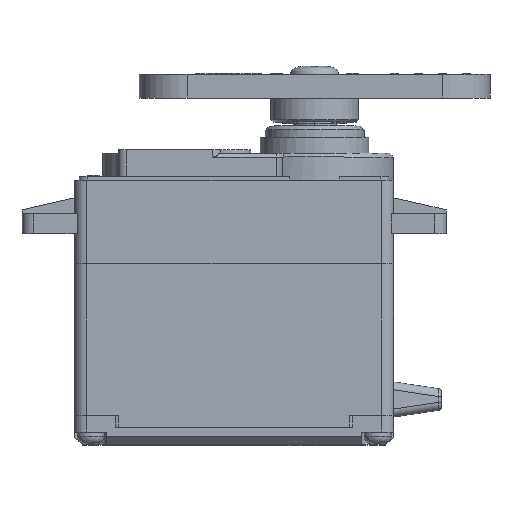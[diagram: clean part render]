
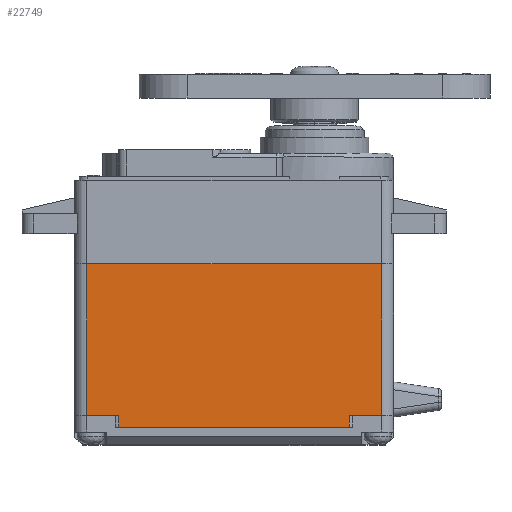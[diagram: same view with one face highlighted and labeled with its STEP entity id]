
A CAD part, top view. The second image highlights one B-rep face of the part: STEP entity #22749.
In plain terms, the highlighted planar face has unit normal (0, 0, 1).
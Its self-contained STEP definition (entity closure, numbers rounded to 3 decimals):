
#22097=DIRECTION('',(0.,1.,0.));
#22098=VECTOR('',#22097,1.5);
#22099=CARTESIAN_POINT('',(14.466,0.,10.));
#22100=LINE('',#22099,#22098);
#22104=DIRECTION('',(-1.,0.,0.));
#22105=VECTOR('',#22104,4.034);
#22106=CARTESIAN_POINT('',(-14.466,1.5,10.));
#22107=LINE('',#22106,#22105);
#22111=DIRECTION('',(-1.,0.,0.));
#22112=VECTOR('',#22111,4.034);
#22113=CARTESIAN_POINT('',(18.5,1.5,10.));
#22114=LINE('',#22113,#22112);
#22118=DIRECTION('',(-1.,0.,0.));
#22119=VECTOR('',#22118,28.931);
#22120=CARTESIAN_POINT('',(14.466,0.,10.));
#22121=LINE('',#22120,#22119);
#22132=DIRECTION('',(0.,-1.,0.));
#22133=VECTOR('',#22132,1.5);
#22134=CARTESIAN_POINT('',(-14.466,1.5,10.));
#22135=LINE('',#22134,#22133);
#22256=DIRECTION('',(-1.,0.,0.));
#22257=VECTOR('',#22256,37.);
#22258=CARTESIAN_POINT('',(18.5,20.5,10.));
#22259=LINE('',#22258,#22257);
#22338=DIRECTION('',(0.,1.,0.));
#22339=VECTOR('',#22338,19.);
#22340=CARTESIAN_POINT('',(18.5,1.5,10.));
#22341=LINE('',#22340,#22339);
#22390=DIRECTION('',(0.,-1.,0.));
#22391=VECTOR('',#22390,19.);
#22392=CARTESIAN_POINT('',(-18.5,20.5,10.));
#22393=LINE('',#22392,#22391);
#22440=CARTESIAN_POINT('',(-14.466,0.,10.));
#22441=VERTEX_POINT('',#22440);
#22442=CARTESIAN_POINT('',(14.466,0.,10.));
#22443=VERTEX_POINT('',#22442);
#22496=CARTESIAN_POINT('',(14.466,1.5,10.));
#22497=VERTEX_POINT('',#22496);
#22498=CARTESIAN_POINT('',(-14.466,1.5,10.));
#22499=VERTEX_POINT('',#22498);
#22500=CARTESIAN_POINT('',(-18.5,1.5,10.));
#22501=VERTEX_POINT('',#22500);
#22502=CARTESIAN_POINT('',(-18.5,20.5,10.));
#22503=VERTEX_POINT('',#22502);
#22504=CARTESIAN_POINT('',(18.5,20.5,10.));
#22505=VERTEX_POINT('',#22504);
#22506=CARTESIAN_POINT('',(18.5,1.5,10.));
#22507=VERTEX_POINT('',#22506);
#22728=CARTESIAN_POINT('',(-18.5,0.,10.));
#22729=DIRECTION('',(0.,0.,1.));
#22730=DIRECTION('',(1.,0.,0.));
#22731=AXIS2_PLACEMENT_3D('',#22728,#22729,#22730);
#22732=PLANE('',#22731);
#22734=ORIENTED_EDGE('',*,*,#22733,.F.);
#22736=ORIENTED_EDGE('',*,*,#22735,.T.);
#22738=ORIENTED_EDGE('',*,*,#22737,.F.);
#22740=ORIENTED_EDGE('',*,*,#22739,.F.);
#22742=ORIENTED_EDGE('',*,*,#22741,.F.);
#22744=ORIENTED_EDGE('',*,*,#22743,.T.);
#22745=ORIENTED_EDGE('',*,*,#22721,.F.);
#22746=ORIENTED_EDGE('',*,*,#22541,.T.);
#22747=EDGE_LOOP('',(#22734,#22736,#22738,#22740,#22742,#22744,#22745,#22746));
#22748=FACE_OUTER_BOUND('',#22747,.F.);
#22749=ADVANCED_FACE('',(#22748),#22732,.T.);
#22541=EDGE_CURVE('',#22443,#22441,#22121,.T.);
#22721=EDGE_CURVE('',#22443,#22497,#22100,.T.);
#22733=EDGE_CURVE('',#22499,#22441,#22135,.T.);
#22735=EDGE_CURVE('',#22499,#22501,#22107,.T.);
#22737=EDGE_CURVE('',#22503,#22501,#22393,.T.);
#22739=EDGE_CURVE('',#22505,#22503,#22259,.T.);
#22741=EDGE_CURVE('',#22507,#22505,#22341,.T.);
#22743=EDGE_CURVE('',#22507,#22497,#22114,.T.);
